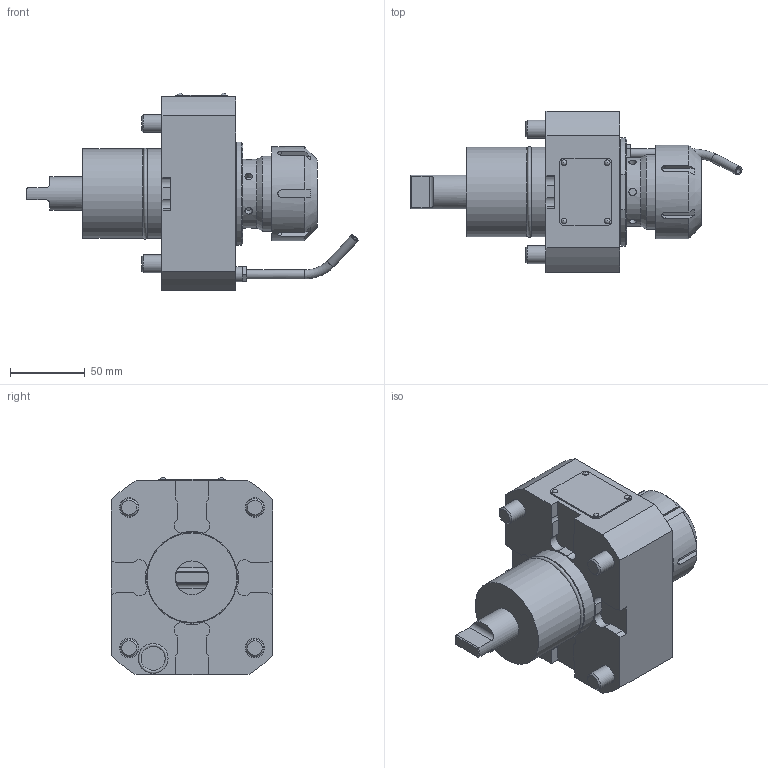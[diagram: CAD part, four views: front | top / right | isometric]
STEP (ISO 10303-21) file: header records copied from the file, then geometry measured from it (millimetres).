
FILE_DESCRIPTION(/* description */ (''),/* implementation_level */ '2;1');
FILE_NAME(/* name */ '187708',/* time_stamp */ '2023-04-21T09:17:11+02:00',/* author */ (''),/* organization */ (''),/* preprocessor_version */ 'ST-DEVELOPER v16.5',/* originating_system */ 'HiCAD 2017 2201.0 Build 268',/* authorisation */ '');
FILE_SCHEMA (('AUTOMOTIVE_DESIGN { 1 0 10303 214 1 1 1 1 }'));
Length unit declared in the file: millimetre
Products named in the file (8): Root; Teil; QRSTUVWXYZ[\]^_`ABCDEFGHIJKLMNOPQRSTUVWXYZ{|}~\X2\20AC0081201A0191
201E20262020202102C62030016020390152008D017D008F009020182019201C201D2022
2013201402DC21220160203A0152009D017D017800A000A100A200A300A400A500A600A7
00A800A900AA00AB00AC00AD00AE00AF00B000B100B200B300B4F5C2FFFD7FFE\X0\; GEWINDE; DIN 76-M8
Assembly tree (7 placements, depth 3):
  Root
    Teil
      QRSTUVWXYZ[\]^_`ABCDEFGHIJKLMNOPQRSTUVWXYZ{|}~\X2\20AC0081201A0191
201E20262020202102C62030016020390152008D017D008F009020182019201C201D2022
2013201402DC21220160203A0152009D017D017800A000A100A200A300A400A500A600A7
00A800A900AA00AB00AC00AD00AE00AF00B000B100B200B300B4F5C2FFFD7FFE\X0\
      GEWINDE
      GEWINDE
      GEWINDE
      GEWINDE
      DIN 76-M8
Bounding box: 222.17 x 108 x 132.3 mm (x, y, z)
Volume: 886242.6 mm3; surface area: 128709.5 mm2
Topology: 7 solids, 13 shells, 326 faces, 755 edges, 487 vertices
Faces by surface type: plane 171, cylinder 102, cone 28, torus 21, sphere 4
Full cylindrical faces by diameter (mm): 2.2 x4, 4 x2, 5 x6, 6 x2, 6.8 x3, 8 x2, 8.773 x2, 9.853 x8, 10 x1, 12 x8, 13 x4, 18 x4, 20 x6, 22.5 x1, 30.5 x2, 33.6 x1, 37.1 x1, 46 x1, 48.5 x1, 50 x1, 51 x1, 55 x1, 55.9 x2, 59.9 x1, 60 x1, 62.7 x1, 67 x1
Entity records: 19948 total; most frequent: CARTESIAN_POINT 6174, DIRECTION 1512, PRESENTATION_STYLE_ASSIGNMENT 1322, OVER_RIDING_STYLED_ITEM 1315, COLOUR_RGB 1213, DRAUGHTING_PRE_DEFINED_CURVE_FONT 1212, CURVE_STYLE 1212, ORIENTED_EDGE 1212
